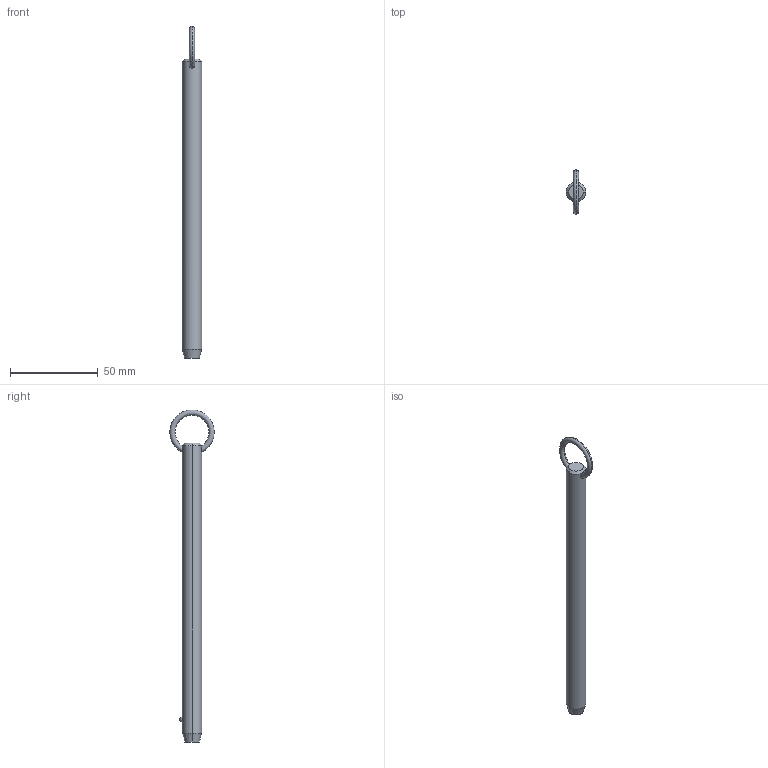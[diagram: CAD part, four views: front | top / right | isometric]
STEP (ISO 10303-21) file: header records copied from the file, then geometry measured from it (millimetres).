
FILE_DESCRIPTION (( 'STEP AP203' ), '1' );
FILE_NAME ('P1250.050-590.step', '2019-07-29T20:40:43', ( '' ), ( '' ), 'SwSTEP 2.0', 'SolidWorks 2017', '' );
FILE_SCHEMA (( 'CONFIG_CONTROL_DESIGN' ));
Length unit declared in the file: millimetre
Products named in the file (1): P1250.050-590
Bounding box: 11.1 x 25.32 x 189.45 mm (x, y, z)
Volume: 16781.8 mm3; surface area: 6598.3 mm2
Topology: 1 solids, 1 shells, 12 faces, 28 edges, 17 vertices
Faces by surface type: cone 4, torus 2, sphere 2, cylinder 2, plane 2
Entity records: 523 total; most frequent: CARTESIAN_POINT 190, DIRECTION 56, ORIENTED_EDGE 48, AXIS2_PLACEMENT_3D 25, EDGE_CURVE 24, EDGE_LOOP 15, VERTEX_POINT 15, ADVANCED_FACE 12
